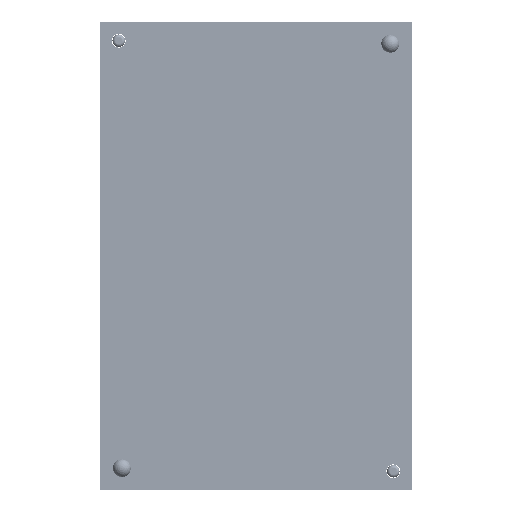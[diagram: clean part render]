
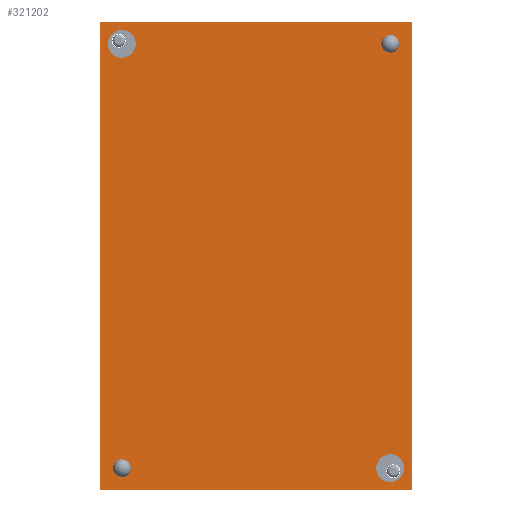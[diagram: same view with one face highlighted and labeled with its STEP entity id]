
A CAD part, front view. The second image highlights one B-rep face of the part: STEP entity #321202.
In plain terms, the highlighted planar face has unit normal (0, -1, 0).
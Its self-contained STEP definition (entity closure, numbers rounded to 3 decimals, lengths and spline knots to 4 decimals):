
#183775 = VERTEX_POINT ( 'NONE', #252582 ) ;
#183776 = VERTEX_POINT ( 'NONE', #252586 ) ;
#183779 = VERTEX_POINT ( 'NONE', #252596 ) ;
#183784 = VERTEX_POINT ( 'NONE', #252614 ) ;
#198643 = VERTEX_POINT ( 'NONE', #198646 ) ;
#198646 = CARTESIAN_POINT ( 'NONE',  ( 0.93, -0.2012, -1.4745 ) ) ;
#231888 = VERTEX_POINT ( 'NONE', #231891 ) ;
#231891 = CARTESIAN_POINT ( 'NONE',  ( 0.07, -0.2012, -1.4583 ) ) ;
#231898 = VERTEX_POINT ( 'NONE', #231900 ) ;
#231900 = CARTESIAN_POINT ( 'NONE',  ( 0.93, -0.2012, -0.0983 ) ) ;
#231903 = VERTEX_POINT ( 'NONE', #231906 ) ;
#231906 = CARTESIAN_POINT ( 'NONE',  ( 0.07, -0.2012, -0.1145 ) ) ;
#252582 = CARTESIAN_POINT ( 'NONE',  ( 1., -0.2012, 0. ) ) ;
#252586 = CARTESIAN_POINT ( 'NONE',  ( 1., -0.2012, -1.5 ) ) ;
#252596 = CARTESIAN_POINT ( 'NONE',  ( 0., -0.2012, -1.5 ) ) ;
#252614 = CARTESIAN_POINT ( 'NONE',  ( 0., -0.2012, 0. ) ) ;
#277034 = ORIENTED_EDGE ( 'NONE', *, *, #605515, .F. ) ;
#277040 = ORIENTED_EDGE ( 'NONE', *, *, #605537, .F. ) ;
#277049 = ORIENTED_EDGE ( 'NONE', *, *, #605664, .F. ) ;
#277055 = ORIENTED_EDGE ( 'NONE', *, *, #580982, .F. ) ;
#277059 = ORIENTED_EDGE ( 'NONE', *, *, #581274, .F. ) ;
#277065 = ORIENTED_EDGE ( 'NONE', *, *, #605581, .F. ) ;
#277072 = ORIENTED_EDGE ( 'NONE', *, *, #605642, .F. ) ;
#277079 = ORIENTED_EDGE ( 'NONE', *, *, #581147, .F. ) ;
#321202 = ADVANCED_FACE ( 'NONE', ( #593103, #593130, #593135, #593119, #593124 ), #629233, .T. ) ;
#343209 = CARTESIAN_POINT ( 'NONE',  ( 0.93, -0.2012, -1.43 ) ) ;
#343223 = DIRECTION ( 'NONE',  ( 0., -1., 0. ) ) ;
#343227 = DIRECTION ( 'NONE',  ( 0., 0., -1. ) ) ;
#343762 = CARTESIAN_POINT ( 'NONE',  ( 0., -0.2012, -1.5 ) ) ;
#343796 = DIRECTION ( 'NONE',  ( -1., 0., 0. ) ) ;
#344189 = CARTESIAN_POINT ( 'NONE',  ( 1., -0.2012, 0. ) ) ;
#344194 = DIRECTION ( 'NONE',  ( 0., 0., -1. ) ) ;
#344988 = AXIS2_PLACEMENT_3D ( 'NONE', #343209, #343223, #343227 ) ;
#349198 = AXIS2_PLACEMENT_3D ( 'NONE', #531416, #531431, #531435 ) ;
#349233 = AXIS2_PLACEMENT_3D ( 'NONE', #531504, #531548, #531551 ) ;
#349250 = AXIS2_PLACEMENT_3D ( 'NONE', #532294, #532342, #532347 ) ;
#351502 = CIRCLE ( 'NONE', #344988, 0.0445 ) ;
#351840 = LINE ( 'NONE', #343762, #351869 ) ;
#351869 = VECTOR ( 'NONE', #343796, 39.3701 ) ;
#352142 = LINE ( 'NONE', #344189, #352144 ) ;
#352144 = VECTOR ( 'NONE', #344194, 39.3701 ) ;
#392139 = EDGE_LOOP ( 'NONE', ( #277034 ) ) ;
#444782 = EDGE_LOOP ( 'NONE', ( #277040 ) ) ;
#444895 = EDGE_LOOP ( 'NONE', ( #277049 ) ) ;
#444945 = EDGE_LOOP ( 'NONE', ( #277055 ) ) ;
#445026 = EDGE_LOOP ( 'NONE', ( #277059, #277065, #277072, #277079 ) ) ;
#523836 = CIRCLE ( 'NONE', #349198, 0.0282 ) ;
#523951 = CIRCLE ( 'NONE', #349233, 0.0282 ) ;
#524179 = LINE ( 'NONE', #531774, #524186 ) ;
#524186 = VECTOR ( 'NONE', #531779, 39.3701 ) ;
#524413 = VECTOR ( 'NONE', #532180, 39.3701 ) ;
#524488 = LINE ( 'NONE', #532175, #524413 ) ;
#524685 = CIRCLE ( 'NONE', #349250, 0.0445 ) ;
#531416 = CARTESIAN_POINT ( 'NONE',  ( 0.07, -0.2012, -1.43 ) ) ;
#531431 = DIRECTION ( 'NONE',  ( 0., -1., 0. ) ) ;
#531435 = DIRECTION ( 'NONE',  ( 0., 0., -1. ) ) ;
#531504 = CARTESIAN_POINT ( 'NONE',  ( 0.93, -0.2012, -0.07 ) ) ;
#531548 = DIRECTION ( 'NONE',  ( 0., -1., 0. ) ) ;
#531551 = DIRECTION ( 'NONE',  ( 0., 0., -1. ) ) ;
#531774 = CARTESIAN_POINT ( 'NONE',  ( 0., -0.2012, 0. ) ) ;
#531779 = DIRECTION ( 'NONE',  ( 1., 0., 0. ) ) ;
#532175 = CARTESIAN_POINT ( 'NONE',  ( 0., -0.2012, 0. ) ) ;
#532180 = DIRECTION ( 'NONE',  ( 0., 0., 1. ) ) ;
#532294 = CARTESIAN_POINT ( 'NONE',  ( 0.07, -0.2012, -0.07 ) ) ;
#532342 = DIRECTION ( 'NONE',  ( 0., -1., 0. ) ) ;
#532347 = DIRECTION ( 'NONE',  ( 0., 0., -1. ) ) ;
#580982 = EDGE_CURVE ( 'NONE', #198643, #198643, #351502, .T. ) ;
#581147 = EDGE_CURVE ( 'NONE', #183776, #183779, #351840, .T. ) ;
#581274 = EDGE_CURVE ( 'NONE', #183775, #183776, #352142, .T. ) ;
#593103 = FACE_BOUND ( 'NONE', #392139, .T. ) ;
#593119 = FACE_BOUND ( 'NONE', #444945, .T. ) ;
#593124 = FACE_OUTER_BOUND ( 'NONE', #445026, .T. ) ;
#593130 = FACE_BOUND ( 'NONE', #444782, .T. ) ;
#593135 = FACE_BOUND ( 'NONE', #444895, .T. ) ;
#599531 = AXIS2_PLACEMENT_3D ( 'NONE', #629231, #629237, #629240 ) ;
#605515 = EDGE_CURVE ( 'NONE', #231888, #231888, #523836, .T. ) ;
#605537 = EDGE_CURVE ( 'NONE', #231898, #231898, #523951, .T. ) ;
#605581 = EDGE_CURVE ( 'NONE', #183784, #183775, #524179, .T. ) ;
#605642 = EDGE_CURVE ( 'NONE', #183779, #183784, #524488, .T. ) ;
#605664 = EDGE_CURVE ( 'NONE', #231903, #231903, #524685, .T. ) ;
#629231 = CARTESIAN_POINT ( 'NONE',  ( 1., -0.2012, -1.5 ) ) ;
#629233 = PLANE ( 'NONE',  #599531 ) ;
#629237 = DIRECTION ( 'NONE',  ( 0., -1., 0. ) ) ;
#629240 = DIRECTION ( 'NONE',  ( 0., 0., -1. ) ) ;
